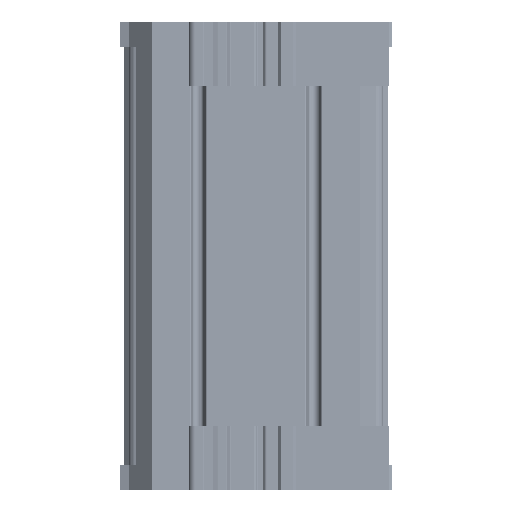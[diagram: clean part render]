
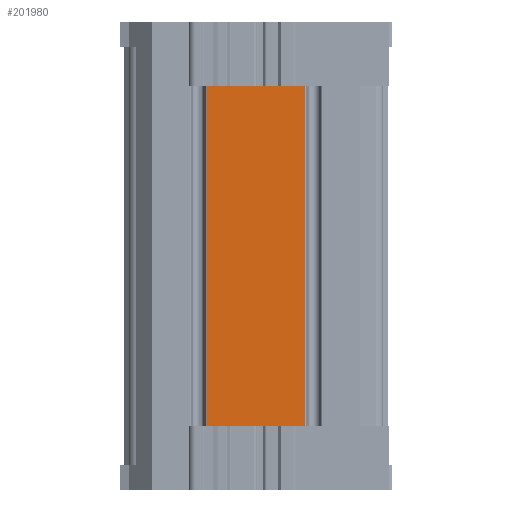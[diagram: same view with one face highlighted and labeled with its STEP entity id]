
A CAD part, left-side view. The second image highlights one B-rep face of the part: STEP entity #201980.
In plain terms, the highlighted planar face has unit normal (-1, 0, 0).
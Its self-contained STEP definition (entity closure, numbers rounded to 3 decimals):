
#4569 = ORIENTED_EDGE ( 'NONE', *, *, #230798, .F. ) ;
#6290 = VECTOR ( 'NONE', #30046, 1000. ) ;
#9805 = EDGE_CURVE ( 'NONE', #253091, #189457, #16504, .T. ) ;
#15303 = CARTESIAN_POINT ( 'NONE',  ( 51.3, 88.685, 45.406 ) ) ;
#16504 = LINE ( 'NONE', #325587, #109376 ) ;
#30046 = DIRECTION ( 'NONE',  ( 0., -1., 0. ) ) ;
#74597 = ORIENTED_EDGE ( 'NONE', *, *, #256803, .F. ) ;
#77155 = VECTOR ( 'NONE', #180587, 1000. ) ;
#85178 = VERTEX_POINT ( 'NONE', #303035 ) ;
#109376 = VECTOR ( 'NONE', #199259, 1000. ) ;
#118422 = DIRECTION ( 'NONE',  ( 0., 0., -1. ) ) ;
#120170 = PLANE ( 'NONE',  #311803 ) ;
#123689 = LINE ( 'NONE', #271621, #228276 ) ;
#146618 = ORIENTED_EDGE ( 'NONE', *, *, #9805, .F. ) ;
#180587 = DIRECTION ( 'NONE',  ( 0., 0., 1. ) ) ;
#189457 = VERTEX_POINT ( 'NONE', #15303 ) ;
#191728 = FACE_OUTER_BOUND ( 'NONE', #280564, .T. ) ;
#194522 = CARTESIAN_POINT ( 'NONE',  ( 51.3, 58.585, 149.806 ) ) ;
#199259 = DIRECTION ( 'NONE',  ( 0., 1., 0. ) ) ;
#199583 = LINE ( 'NONE', #234944, #6290 ) ;
#201980 = ADVANCED_FACE ( 'NONE', ( #191728 ), #120170, .F. ) ;
#209780 = ORIENTED_EDGE ( 'NONE', *, *, #304690, .F. ) ;
#228276 = VECTOR ( 'NONE', #118422, 1000. ) ;
#230798 = EDGE_CURVE ( 'NONE', #320333, #85178, #199583, .T. ) ;
#234944 = CARTESIAN_POINT ( 'NONE',  ( 51.3, 32.635, 149.806 ) ) ;
#235701 = CARTESIAN_POINT ( 'NONE',  ( 51.3, 88.685, 97.606 ) ) ;
#238341 = LINE ( 'NONE', #235701, #77155 ) ;
#253091 = VERTEX_POINT ( 'NONE', #307698 ) ;
#256803 = EDGE_CURVE ( 'NONE', #85178, #253091, #123689, .T. ) ;
#268833 = CARTESIAN_POINT ( 'NONE',  ( 51.3, 88.685, 149.806 ) ) ;
#271162 = DIRECTION ( 'NONE',  ( 0., 0., -1. ) ) ;
#271621 = CARTESIAN_POINT ( 'NONE',  ( 51.3, 58.585, 97.606 ) ) ;
#280564 = EDGE_LOOP ( 'NONE', ( #146618, #74597, #4569, #209780 ) ) ;
#303035 = CARTESIAN_POINT ( 'NONE',  ( 51.3, 58.585, 149.806 ) ) ;
#304690 = EDGE_CURVE ( 'NONE', #189457, #320333, #238341, .T. ) ;
#307698 = CARTESIAN_POINT ( 'NONE',  ( 51.3, 58.585, 45.406 ) ) ;
#311803 = AXIS2_PLACEMENT_3D ( 'NONE', #194522, #325240, #271162 ) ;
#320333 = VERTEX_POINT ( 'NONE', #268833 ) ;
#325240 = DIRECTION ( 'NONE',  ( 1., 0., 0. ) ) ;
#325587 = CARTESIAN_POINT ( 'NONE',  ( 51.3, 32.635, 45.406 ) ) ;
